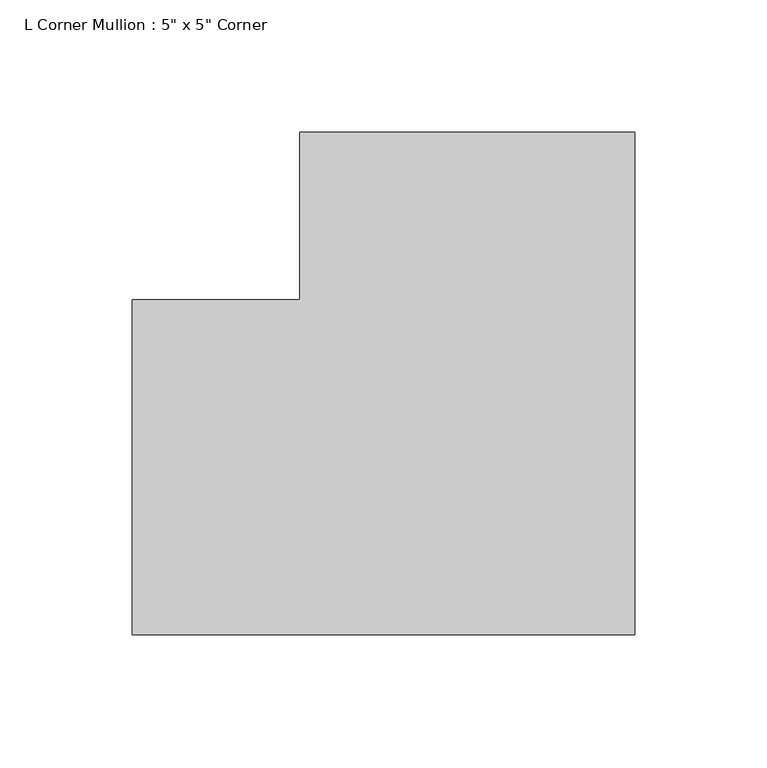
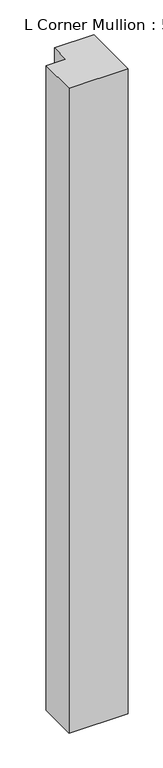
"""IFC4 building model written with IfcOpenShell, lengths in millimetres: member geometry."""

from ifc_helpers import new_model, si_unit, frame, origin, place, context, project, spatial, polyline, outline, extrude, source, transform, mapped, element, save


def member_1de6f154(model_context):
    return source(origin(), model_context, "Body", "SweptSolid", [
        extrude(outline(polyline([(63.5, 127.0), (63.5, -63.5), (-127.0, -63.5), (-127.0, 63.5), (-63.5, 63.5), (-63.5, 127.0), (63.5, 127.0)])), frame((0.0, 0.0, -2197.1), z_axis=(0.0, 0.0, 1.0), x_axis=(1.0, 0.0, 0.0)), (0.0, 0.0, 1.0), 2197.1),
    ])


if __name__ == "__main__":
    model = new_model("IFC4")
    model_context = context("Model", 3, world=origin())
    ifc_project = project(units=[si_unit("LENGTHUNIT", "METRE", prefix="MILLI")], contexts=[model_context])
    site = spatial("IfcSite", under=ifc_project)
    building = spatial("IfcBuilding", under=site)
    placement = place(None, origin())
    member_shape = member_1de6f154(model_context)
    element("IfcMember", 1, ObjectType="L Corner Mullion : 5\" x 5\" Corner", at=placement, inside=building, context=model_context, shape_type="MappedRepresentation", body=[
        mapped(member_shape, transform((0.0, 0.0, 0.0), x_axis=(1.0, 0.0, 0.0), y_axis=(0.0, 1.0, 0.0), z_axis=(0.0, 0.0, 1.0))),
    ])
    save(model, "model.ifc")
